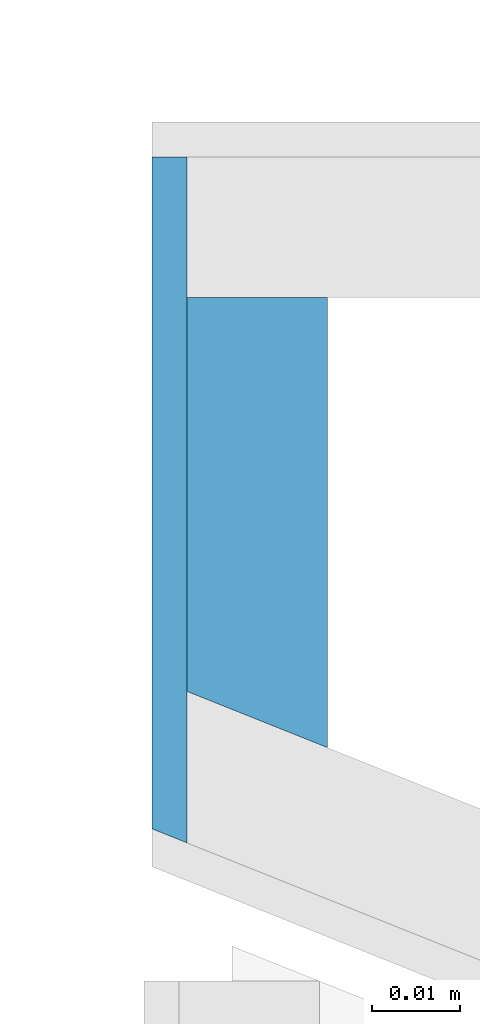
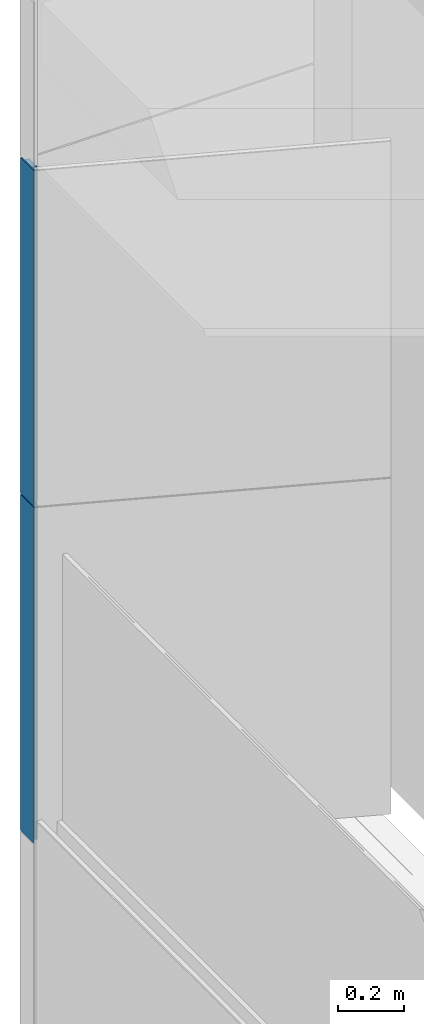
# One storey, part 12 of 57: 4 building element parts, 1 element without a shape of its own.
"""IFC2X3 building model written with IfcOpenShell, lengths in millimetres."""

from ifc_helpers import new_model, entity, si_unit, converted_unit, direction, frame, origin, place, context, subcontext, project, spatial, polyline, outline, extrude, material, type_object, element, aggregate, save


model = new_model("IFC2X3")

# Units and contexts
model_context = context("Model", 3, precision=0.01, world=origin(), true_north=direction((6.123233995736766e-17, 1.0)))
plan_context = context("Plan", 3, precision=0.01, world=origin(), true_north=direction((6.123233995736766e-17, 1.0)))
body_context = subcontext(model_context, "Body", "Model", "MODEL_VIEW")
ifc_project = project(units=[si_unit("LENGTHUNIT", "METRE", prefix="MILLI"), converted_unit("PLANEANGLEUNIT", "DEGREE", entity("IfcPlaneAngleMeasure", 0.017453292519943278), si_unit("PLANEANGLEUNIT", "RADIAN"), dimensions=[0, 0, 0, 0, 0, 0, 0]), si_unit("AREAUNIT", "SQUARE_METRE")], contexts=[model_context, plan_context])

# Site, building, storey
site_placement = place(None, origin())
site = spatial("IfcSite", under=ifc_project, at=site_placement, Name="Default", CompositionType="ELEMENT")
building_placement = place(site_placement, origin())
building = spatial("IfcBuilding", under=site, at=building_placement, CompositionType="ELEMENT")
storey_placement = place(building_placement, frame((0.0, 0.0, 12811.000000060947)))
storey = spatial("IfcBuildingStorey", under=building, at=storey_placement, Name="5K", CompositionType="ELEMENT", Elevation=12811.000000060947)

# Wall, building element parts
wall_type = type_object("IfcWallType", Name="Basic Wall:VS-komposiit", PredefinedType="STANDARD")
wall_placement = place(storey_placement, frame((-1441.0, 15760.776456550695, -946.0), z_axis=(0.0, 0.0, 1.0), x_axis=(0.0, 1.0, 0.0)))
wall = element("IfcWall", 1, at=wall_placement, inside=storey, type_object=wall_type, Name="Basic Wall:VS-komposiit", ObjectType="Basic Wall:VS-komposiit")
ifc_material_1 = material(Name="_K. Õhk. Roov. Fassaadikatte alusroov. Horisontaalne. 25 mm")
building_element_part_1_placement = place(wall_placement, origin())
building_element_part_1 = element("IfcBuildingElementPart", 2, at=building_element_part_1_placement, material=ifc_material_1, Name="Part", context=body_context, shape_type="SweptSolid", body=[
    extrude(outline(polyline([(-24.009852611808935, -8.0), (20.80942594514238, -8.0), (27.210279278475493, 8.0), (-24.009852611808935, 8.0), (-24.009852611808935, -8.0)])), frame((27.210279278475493, -2.0, 856.0), z_axis=(0.0, 0.0, 1.0), x_axis=(-1.0, 0.0, 0.0)), (0.0, 0.0, 1.0), 1240.0000000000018),
])
building_element_part_2_placement = place(wall_placement, origin())
building_element_part_2 = element("IfcBuildingElementPart", 3, at=building_element_part_2_placement, material=ifc_material_1, Name="Part", context=body_context, shape_type="SweptSolid", body=[
    extrude(outline(polyline([(-24.009852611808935, -8.0), (20.80942594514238, -8.0), (27.210279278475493, 8.0), (-24.009852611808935, 8.0), (-24.009852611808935, -8.0)])), frame((27.210279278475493, -2.0, 2101.0), z_axis=(0.0, 0.0, 1.0), x_axis=(-1.0, 0.0, 0.0)), (0.0, 0.0, 1.0), 1240.000000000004),
])
ifc_material_2 = material(Name="_K. Välisviimistlus. Alumiinium-komposiitplaat")
building_element_part_3_placement = place(wall_placement, origin())
building_element_part_3 = element("IfcBuildingElementPart", 4, at=building_element_part_3_placement, material=ifc_material_2, Name="Part", context=body_context, shape_type="SweptSolid", body=[
    extrude(outline(polyline([(-38.62600810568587, -2.0), (37.82590143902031, -2.0), (39.42611477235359, 2.0), (-38.62600810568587, 2.0), (-38.62600810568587, -2.0)])), frame((28.594123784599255, 8.0, 856.0), z_axis=(0.0, 0.0, 1.0), x_axis=(-1.0, 0.0, 0.0)), (0.0, 0.0, 1.0), 1240.0000000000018),
])
building_element_part_4_placement = place(wall_placement, origin())
building_element_part_4 = element("IfcBuildingElementPart", 5, at=building_element_part_4_placement, material=ifc_material_2, Name="Part", context=body_context, shape_type="SweptSolid", body=[
    extrude(outline(polyline([(-38.62600810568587, -2.0), (37.82590143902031, -2.0), (39.42611477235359, 2.0), (-38.62600810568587, 2.0), (-38.62600810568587, -2.0)])), frame((28.594123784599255, 8.0, 2101.0), z_axis=(0.0, 0.0, 1.0), x_axis=(-1.0, 0.0, 0.0)), (0.0, 0.0, 1.0), 1240.000000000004),
])
aggregate(wall, [building_element_part_1, building_element_part_2, building_element_part_3, building_element_part_4])

save(model, "model.ifc")
